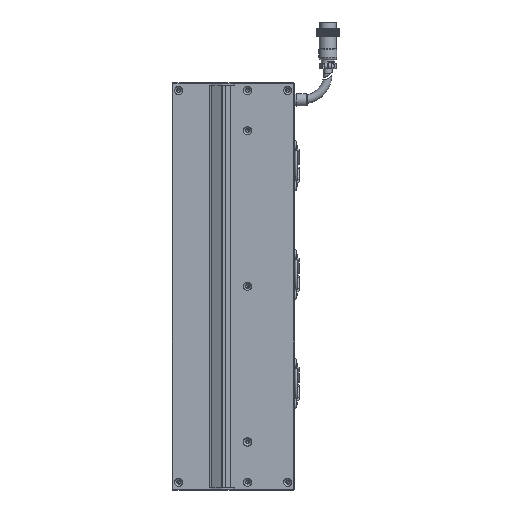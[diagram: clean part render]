
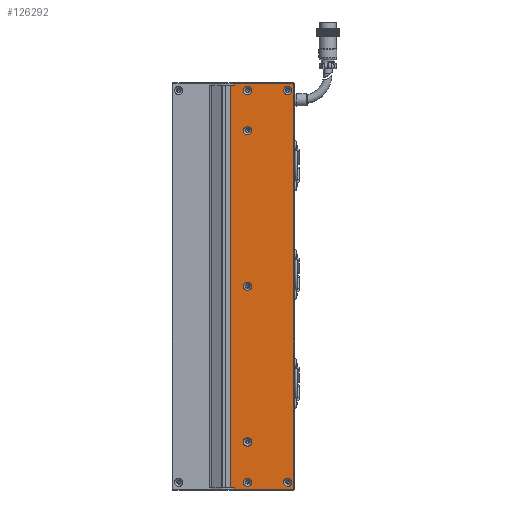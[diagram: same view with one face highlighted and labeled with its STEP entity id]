
A CAD part, left-side view. The second image highlights one B-rep face of the part: STEP entity #126292.
In plain terms, the highlighted planar face has unit normal (-1, 0, 0).
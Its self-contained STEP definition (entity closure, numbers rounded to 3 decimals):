
#486 = CARTESIAN_POINT ( 'NONE',  ( -24.998, -72., 156.5 ) ) ;
#603 = CARTESIAN_POINT ( 'NONE',  ( -24.998, -26.5, 155. ) ) ;
#1314 = AXIS2_PLACEMENT_3D ( 'NONE', #25724, #97229, #44934 ) ;
#5103 = FACE_BOUND ( 'NONE', #47546, .T. ) ;
#5389 = DIRECTION ( 'NONE',  ( 0., 1., 0. ) ) ;
#5586 = LINE ( 'NONE', #71518, #8769 ) ;
#6154 = ORIENTED_EDGE ( 'NONE', *, *, #56638, .F. ) ;
#6852 = ORIENTED_EDGE ( 'NONE', *, *, #9980, .F. ) ;
#6885 = EDGE_CURVE ( 'NONE', #113948, #23634, #19842, .T. ) ;
#7479 = CARTESIAN_POINT ( 'NONE',  ( -24.998, -36.5, -151. ) ) ;
#8769 = VECTOR ( 'NONE', #20995, 1000. ) ;
#9980 = EDGE_CURVE ( 'NONE', #74091, #74091, #121783, .T. ) ;
#10124 = CARTESIAN_POINT ( 'NONE',  ( -24.998, -72., 155. ) ) ;
#11383 = CARTESIAN_POINT ( 'NONE',  ( -24.998, -26.5, -148. ) ) ;
#12619 = CARTESIAN_POINT ( 'NONE',  ( -24.998, -67.5, 154.15 ) ) ;
#12898 = CARTESIAN_POINT ( 'NONE',  ( -24.998, -72.5, -155. ) ) ;
#14014 = EDGE_LOOP ( 'NONE', ( #94523 ) ) ;
#14567 = VERTEX_POINT ( 'NONE', #46017 ) ;
#14881 = EDGE_CURVE ( 'NONE', #40399, #40399, #97827, .T. ) ;
#17598 = VECTOR ( 'NONE', #112604, 1000. ) ;
#17892 = FACE_OUTER_BOUND ( 'NONE', #49261, .T. ) ;
#18245 = LINE ( 'NONE', #56330, #123838 ) ;
#19633 = VECTOR ( 'NONE', #111354, 1000. ) ;
#19842 = LINE ( 'NONE', #97363, #125430 ) ;
#20282 = AXIS2_PLACEMENT_3D ( 'NONE', #43331, #53191, #32694 ) ;
#20353 = DIRECTION ( 'NONE',  ( 0., 0., 1. ) ) ;
#20995 = DIRECTION ( 'NONE',  ( 0., -1., 0. ) ) ;
#23634 = VERTEX_POINT ( 'NONE', #86146 ) ;
#25724 = CARTESIAN_POINT ( 'NONE',  ( -24.998, -72.5, 155. ) ) ;
#26176 = EDGE_LOOP ( 'NONE', ( #60156 ) ) ;
#26435 = LINE ( 'NONE', #10124, #93653 ) ;
#27881 = CARTESIAN_POINT ( 'NONE',  ( -24.998, -36.5, -116.85 ) ) ;
#30372 = VERTEX_POINT ( 'NONE', #486 ) ;
#30399 = CARTESIAN_POINT ( 'NONE',  ( -24.998, -72.5, -156.5 ) ) ;
#30864 = DIRECTION ( 'NONE',  ( -1., 0., 0. ) ) ;
#31390 = CARTESIAN_POINT ( 'NONE',  ( -24.998, -36.5, -147.85 ) ) ;
#32297 = CARTESIAN_POINT ( 'NONE',  ( -24.998, -36.5, 154.15 ) ) ;
#32648 = AXIS2_PLACEMENT_3D ( 'NONE', #108814, #57048, #55717 ) ;
#32694 = DIRECTION ( 'NONE',  ( 0., 0., 1. ) ) ;
#33098 = DIRECTION ( 'NONE',  ( 0., 0., 1. ) ) ;
#37557 = CARTESIAN_POINT ( 'NONE',  ( -24.998, -67.5, 151. ) ) ;
#37747 = CIRCLE ( 'NONE', #49010, 3.15 ) ;
#40399 = VERTEX_POINT ( 'NONE', #78851 ) ;
#42433 = ORIENTED_EDGE ( 'NONE', *, *, #122938, .T. ) ;
#43142 = CARTESIAN_POINT ( 'NONE',  ( -24.998, -26.5, 156.5 ) ) ;
#43331 = CARTESIAN_POINT ( 'NONE',  ( -24.998, -36.5, 151. ) ) ;
#43357 = VERTEX_POINT ( 'NONE', #94384 ) ;
#43582 = EDGE_CURVE ( 'NONE', #78694, #78694, #81140, .T. ) ;
#44934 = DIRECTION ( 'NONE',  ( 0., 0., -1. ) ) ;
#45051 = FACE_BOUND ( 'NONE', #77411, .T. ) ;
#45079 = CARTESIAN_POINT ( 'NONE',  ( -24.998, -26.5, -156.5 ) ) ;
#46017 = CARTESIAN_POINT ( 'NONE',  ( -24.998, -36.5, 123.15 ) ) ;
#47123 = VERTEX_POINT ( 'NONE', #43142 ) ;
#47510 = CARTESIAN_POINT ( 'NONE',  ( -24.998, -26.5, -155. ) ) ;
#47546 = EDGE_LOOP ( 'NONE', ( #110171 ) ) ;
#47907 = LINE ( 'NONE', #12898, #100621 ) ;
#48884 = CARTESIAN_POINT ( 'NONE',  ( -24.998, -67.5, -151. ) ) ;
#49010 = AXIS2_PLACEMENT_3D ( 'NONE', #119966, #99826, #130228 ) ;
#49261 = EDGE_LOOP ( 'NONE', ( #61544, #95012, #58064, #85812, #116499, #42433, #130307, #87979 ) ) ;
#53191 = DIRECTION ( 'NONE',  ( -1., 0., 0. ) ) ;
#54003 = CIRCLE ( 'NONE', #80979, 3.15 ) ;
#55717 = DIRECTION ( 'NONE',  ( 0., 0., 1. ) ) ;
#56330 = CARTESIAN_POINT ( 'NONE',  ( -24.998, -72.5, 156.5 ) ) ;
#56638 = EDGE_CURVE ( 'NONE', #102637, #102637, #54003, .T. ) ;
#57048 = DIRECTION ( 'NONE',  ( -1., 0., 0. ) ) ;
#57347 = VECTOR ( 'NONE', #94023, 1000. ) ;
#58064 = ORIENTED_EDGE ( 'NONE', *, *, #74806, .T. ) ;
#60156 = ORIENTED_EDGE ( 'NONE', *, *, #14881, .F. ) ;
#60200 = EDGE_LOOP ( 'NONE', ( #6154 ) ) ;
#61544 = ORIENTED_EDGE ( 'NONE', *, *, #102179, .T. ) ;
#64642 = EDGE_CURVE ( 'NONE', #43357, #43357, #85833, .T. ) ;
#64962 = EDGE_CURVE ( 'NONE', #96413, #90581, #89397, .T. ) ;
#68061 = AXIS2_PLACEMENT_3D ( 'NONE', #48884, #109659, #89172 ) ;
#70156 = VERTEX_POINT ( 'NONE', #113213 ) ;
#71518 = CARTESIAN_POINT ( 'NONE',  ( -24.998, -72.5, 155. ) ) ;
#71768 = EDGE_CURVE ( 'NONE', #107392, #107392, #107816, .T. ) ;
#74091 = VERTEX_POINT ( 'NONE', #27881 ) ;
#74806 = EDGE_CURVE ( 'NONE', #90581, #70156, #99136, .T. ) ;
#77036 = FACE_BOUND ( 'NONE', #104299, .T. ) ;
#77411 = EDGE_LOOP ( 'NONE', ( #115672 ) ) ;
#78663 = DIRECTION ( 'NONE',  ( 0., 0., 1. ) ) ;
#78694 = VERTEX_POINT ( 'NONE', #31390 ) ;
#78851 = CARTESIAN_POINT ( 'NONE',  ( -24.998, -67.5, -147.85 ) ) ;
#79394 = ORIENTED_EDGE ( 'NONE', *, *, #43582, .F. ) ;
#80979 = AXIS2_PLACEMENT_3D ( 'NONE', #37557, #119743, #78663 ) ;
#81140 = CIRCLE ( 'NONE', #132395, 3.15 ) ;
#85812 = ORIENTED_EDGE ( 'NONE', *, *, #109427, .T. ) ;
#85833 = CIRCLE ( 'NONE', #32648, 3.15 ) ;
#86093 = EDGE_LOOP ( 'NONE', ( #6852 ) ) ;
#86146 = CARTESIAN_POINT ( 'NONE',  ( -24.998, -23.25, 155. ) ) ;
#87979 = ORIENTED_EDGE ( 'NONE', *, *, #6885, .F. ) ;
#89172 = DIRECTION ( 'NONE',  ( 0., 0., 1. ) ) ;
#89397 = LINE ( 'NONE', #11383, #57347 ) ;
#90581 = VERTEX_POINT ( 'NONE', #45079 ) ;
#91464 = VERTEX_POINT ( 'NONE', #603 ) ;
#93653 = VECTOR ( 'NONE', #20353, 1000. ) ;
#94023 = DIRECTION ( 'NONE',  ( 0., 0., -1. ) ) ;
#94384 = CARTESIAN_POINT ( 'NONE',  ( -24.998, -36.5, 3.15 ) ) ;
#94523 = ORIENTED_EDGE ( 'NONE', *, *, #64642, .F. ) ;
#95012 = ORIENTED_EDGE ( 'NONE', *, *, #64962, .T. ) ;
#95107 = DIRECTION ( 'NONE',  ( 0., -1., 0. ) ) ;
#96369 = PLANE ( 'NONE',  #1314 ) ;
#96413 = VERTEX_POINT ( 'NONE', #47510 ) ;
#97229 = DIRECTION ( 'NONE',  ( 1., 0., 0. ) ) ;
#97363 = CARTESIAN_POINT ( 'NONE',  ( -24.998, -23.25, -155. ) ) ;
#97827 = CIRCLE ( 'NONE', #68061, 3.15 ) ;
#99060 = DIRECTION ( 'NONE',  ( -1., 0., 0. ) ) ;
#99136 = LINE ( 'NONE', #30399, #17598 ) ;
#99450 = FACE_BOUND ( 'NONE', #86093, .T. ) ;
#99826 = DIRECTION ( 'NONE',  ( -1., 0., 0. ) ) ;
#100621 = VECTOR ( 'NONE', #95107, 1000. ) ;
#102179 = EDGE_CURVE ( 'NONE', #113948, #96413, #47907, .T. ) ;
#102637 = VERTEX_POINT ( 'NONE', #12619 ) ;
#104221 = FACE_BOUND ( 'NONE', #26176, .T. ) ;
#104299 = EDGE_LOOP ( 'NONE', ( #79394 ) ) ;
#104441 = LINE ( 'NONE', #121198, #19633 ) ;
#105121 = CARTESIAN_POINT ( 'NONE',  ( -24.998, -23.25, -155. ) ) ;
#105855 = FACE_BOUND ( 'NONE', #60200, .T. ) ;
#107392 = VERTEX_POINT ( 'NONE', #32297 ) ;
#107816 = CIRCLE ( 'NONE', #20282, 3.15 ) ;
#108366 = EDGE_CURVE ( 'NONE', #14567, #14567, #37747, .T. ) ;
#108814 = CARTESIAN_POINT ( 'NONE',  ( -24.998, -36.5, 0. ) ) ;
#108940 = DIRECTION ( 'NONE',  ( 0., 0., 1. ) ) ;
#109427 = EDGE_CURVE ( 'NONE', #70156, #30372, #26435, .T. ) ;
#109659 = DIRECTION ( 'NONE',  ( -1., 0., 0. ) ) ;
#110171 = ORIENTED_EDGE ( 'NONE', *, *, #108366, .F. ) ;
#110254 = EDGE_CURVE ( 'NONE', #23634, #91464, #5586, .T. ) ;
#111354 = DIRECTION ( 'NONE',  ( 0., 0., -1. ) ) ;
#112604 = DIRECTION ( 'NONE',  ( 0., -1., 0. ) ) ;
#113213 = CARTESIAN_POINT ( 'NONE',  ( -24.998, -72., -156.5 ) ) ;
#113948 = VERTEX_POINT ( 'NONE', #105121 ) ;
#115672 = ORIENTED_EDGE ( 'NONE', *, *, #71768, .F. ) ;
#116499 = ORIENTED_EDGE ( 'NONE', *, *, #132072, .T. ) ;
#117035 = FACE_BOUND ( 'NONE', #14014, .T. ) ;
#119743 = DIRECTION ( 'NONE',  ( -1., 0., 0. ) ) ;
#119843 = AXIS2_PLACEMENT_3D ( 'NONE', #132285, #30864, #33098 ) ;
#119966 = CARTESIAN_POINT ( 'NONE',  ( -24.998, -36.5, 120. ) ) ;
#121198 = CARTESIAN_POINT ( 'NONE',  ( -24.998, -26.5, 148. ) ) ;
#121783 = CIRCLE ( 'NONE', #119843, 3.15 ) ;
#122938 = EDGE_CURVE ( 'NONE', #47123, #91464, #104441, .T. ) ;
#123838 = VECTOR ( 'NONE', #5389, 1000. ) ;
#125430 = VECTOR ( 'NONE', #108940, 1000. ) ;
#126292 = ADVANCED_FACE ( 'NONE', ( #104221, #77036, #45051, #105855, #99450, #117035, #5103, #17892 ), #96369, .F. ) ;
#130228 = DIRECTION ( 'NONE',  ( 0., 0., 1. ) ) ;
#130307 = ORIENTED_EDGE ( 'NONE', *, *, #110254, .F. ) ;
#131196 = DIRECTION ( 'NONE',  ( 0., 0., 1. ) ) ;
#132072 = EDGE_CURVE ( 'NONE', #30372, #47123, #18245, .T. ) ;
#132285 = CARTESIAN_POINT ( 'NONE',  ( -24.998, -36.5, -120. ) ) ;
#132395 = AXIS2_PLACEMENT_3D ( 'NONE', #7479, #99060, #131196 ) ;
